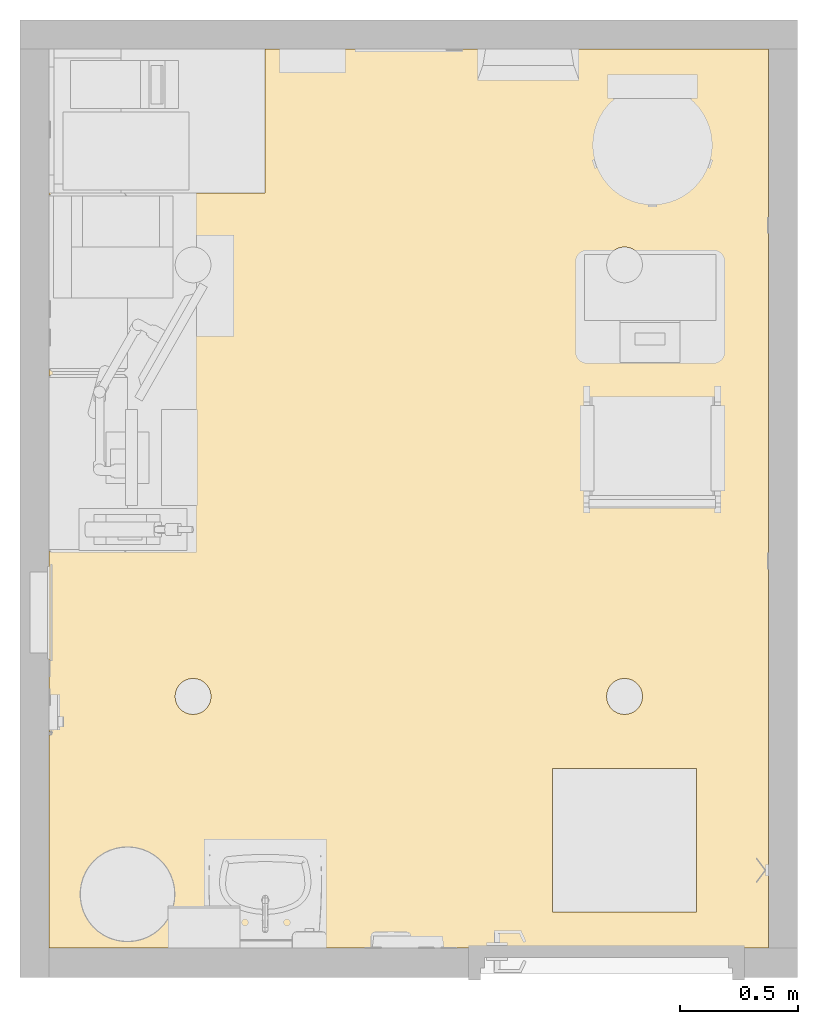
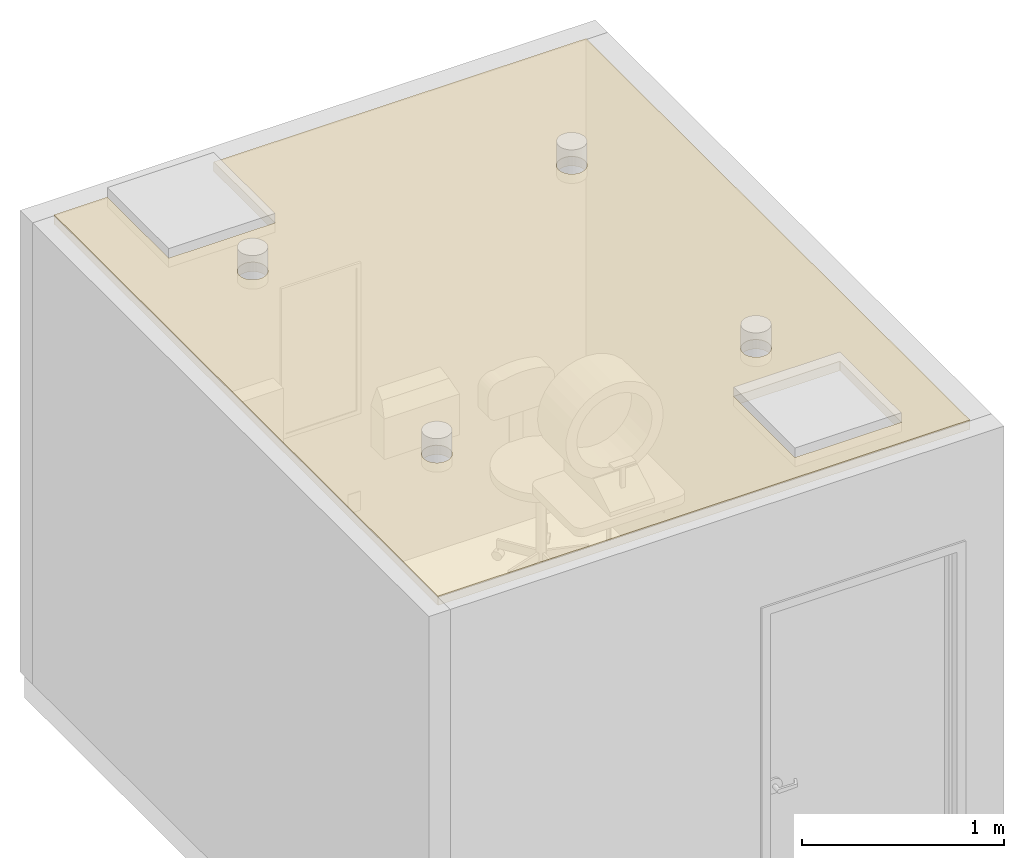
# One storey, part 3 of 11: 1 covering.
"""IFC2X3 building model written with IfcOpenShell, lengths in feet."""

from ifc_helpers import new_model, entity, si_unit, converted_unit, derived_unit, direction, frame, frame_2d, origin, place, context, subcontext, project, spatial, polyline, circle_curve, parameter, trimmed, segment, composite_curve, outline, extrude, material, layer, layer_set, layer_usage, element, save


model = new_model("IFC2X3")

# Units and contexts
model_context = context("Model", 3, precision=0.0001, world=origin(), true_north=direction((6.12303176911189e-17, 1.0)))
body_context = subcontext(model_context, "Body", "Model", "MODEL_VIEW")
ifc_project = project(units=[converted_unit("LENGTHUNIT", "FOOT", entity("IfcRatioMeasure", 0.3048), si_unit("LENGTHUNIT", "METRE"), dimensions=[1, 0, 0, 0, 0, 0, 0]), converted_unit("AREAUNIT", "SQUARE FOOT", entity("IfcRatioMeasure", 0.09290304), si_unit("AREAUNIT", "SQUARE_METRE"), dimensions=[2, 0, 0, 0, 0, 0, 0]), converted_unit("VOLUMEUNIT", "CUBIC FOOT", entity("IfcRatioMeasure", 0.028316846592), si_unit("VOLUMEUNIT", "CUBIC_METRE"), dimensions=[3, 0, 0, 0, 0, 0, 0]), converted_unit("PLANEANGLEUNIT", "DEGREE", entity("IfcRatioMeasure", 0.0174532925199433), si_unit("PLANEANGLEUNIT", "RADIAN"), dimensions=[0, 0, 0, 0, 0, 0, 0]), si_unit("MASSUNIT", "GRAM", prefix="KILO"), derived_unit("MASSDENSITYUNIT", [(si_unit("MASSUNIT", "GRAM", prefix="KILO"), 1), (si_unit("LENGTHUNIT", "METRE"), -3)]), si_unit("TIMEUNIT", "SECOND"), si_unit("FREQUENCYUNIT", "HERTZ"), si_unit("THERMODYNAMICTEMPERATUREUNIT", "DEGREE_CELSIUS"), derived_unit("THERMALTRANSMITTANCEUNIT", [(si_unit("MASSUNIT", "GRAM", prefix="KILO"), 1), (si_unit("THERMODYNAMICTEMPERATUREUNIT", "KELVIN"), -1), (si_unit("TIMEUNIT", "SECOND"), -3)]), derived_unit("VOLUMETRICFLOWRATEUNIT", [(si_unit("LENGTHUNIT", "METRE"), 3), (si_unit("TIMEUNIT", "SECOND"), -1)]), si_unit("ELECTRICCURRENTUNIT", "AMPERE"), si_unit("ELECTRICVOLTAGEUNIT", "VOLT"), si_unit("POWERUNIT", "WATT"), si_unit("FORCEUNIT", "NEWTON"), si_unit("ILLUMINANCEUNIT", "LUX"), si_unit("LUMINOUSFLUXUNIT", "LUMEN"), si_unit("LUMINOUSINTENSITYUNIT", "CANDELA"), derived_unit("USERDEFINED", [(si_unit("MASSUNIT", "GRAM", prefix="KILO"), -1), (si_unit("LENGTHUNIT", "METRE"), -2), (si_unit("TIMEUNIT", "SECOND"), 3), (si_unit("LUMINOUSFLUXUNIT", "LUMEN"), 1)]), derived_unit("LINEARVELOCITYUNIT", [(si_unit("LENGTHUNIT", "METRE"), 1), (si_unit("TIMEUNIT", "SECOND"), -1)]), si_unit("PRESSUREUNIT", "PASCAL"), derived_unit("USERDEFINED", [(si_unit("LENGTHUNIT", "METRE"), -2), (si_unit("MASSUNIT", "GRAM", prefix="KILO"), 1), (si_unit("TIMEUNIT", "SECOND"), -2)])], contexts=[model_context])

# Site, building, storey, space
site_placement = place(None, origin())
site = spatial("IfcSite", under=ifc_project, at=site_placement, Name="Default", CompositionType="ELEMENT")
building_placement = place(site_placement, origin())
building = spatial("IfcBuilding", under=site, at=building_placement, Name="EYE CLINIC:  OPTHALMOLOGY AND OPTOMETRY SERVICES (Ch. 233)", CompositionType="ELEMENT")
storey_placement = place(building_placement, origin())
storey = spatial("IfcBuildingStorey", under=building, at=storey_placement, Name="DATUM", CompositionType="ELEMENT", Elevation=0.0)
space_placement = place(storey_placement, origin())
space = spatial("IfcSpace", under=storey, at=space_placement, Name="(OPVF2)", CompositionType="ELEMENT", InteriorOrExteriorSpace="INTERNAL")

# Covering
ifc_material_1 = material(Name="Default")
ifc_layer_1 = layer(ifc_material_1, 0.135416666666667)
ifc_material_2 = material(Name="Acoustic Ceiling Tile 24 x 24")
ifc_layer_2 = layer(ifc_material_2, 0.0520833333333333)
ifc_layer_set = layer_set([ifc_layer_1, ifc_layer_2], Name="Compound Ceiling:2' x 2' ACT System")
ifc_layer_usage = layer_usage(ifc_layer_set, "AXIS3", "POSITIVE", 0.0)
covering_placement = place(space_placement, origin())
element("IfcCovering", 1, at=covering_placement, inside=space, material=ifc_layer_usage, Name="Compound Ceiling:2' x 2' ACT System", ObjectType="Compound Ceiling:2' x 2' ACT System", PredefinedType="CEILING", context=body_context, shape_type="SweptSolid", body=[
    extrude(outline(polyline([(-8.87500000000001, -6.49999999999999), (3.62499999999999, -6.49999999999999), (3.625, 0.500000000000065), (1.62500000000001, 0.500000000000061), (1.62500000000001, 2.50000000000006), (3.625, 2.50000000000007), (3.625, 3.50000000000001), (-8.875, 3.50000000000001), (-8.87500000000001, -6.49999999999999)]), holes=[composite_curve([segment(trimmed(circle_curve(frame_2d((0.624999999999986, 1.50000000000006), x_axis=(0.0, -1.0)), 0.25), [parameter(180.0)], [parameter(0.0)], True, "PARAMETER"), False, "CONTINUOUS"), segment(trimmed(circle_curve(frame_2d((0.624999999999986, 1.50000000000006), x_axis=(0.0, -1.0)), 0.25), [parameter(0.0)], [parameter(180.0)], True, "PARAMETER"), False, "CONTINUOUS")], self_intersect=False), composite_curve([segment(trimmed(circle_curve(frame_2d((-5.37500000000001, 1.49999999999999), x_axis=(0.0, -1.0)), 0.25), [parameter(180.0)], [parameter(0.0)], True, "PARAMETER"), False, "CONTINUOUS"), segment(trimmed(circle_curve(frame_2d((-5.37500000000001, 1.49999999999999), x_axis=(0.0, -1.0)), 0.25), [parameter(0.0)], [parameter(180.0)], True, "PARAMETER"), False, "CONTINUOUS")], self_intersect=False), composite_curve([segment(trimmed(circle_curve(frame_2d((0.625000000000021, -4.49999999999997), x_axis=(0.0, -1.0)), 0.25), [parameter(180.0)], [parameter(0.0)], True, "PARAMETER"), False, "CONTINUOUS"), segment(trimmed(circle_curve(frame_2d((0.625000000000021, -4.49999999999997), x_axis=(0.0, -1.0)), 0.25), [parameter(0.0)], [parameter(180.0)], True, "PARAMETER"), False, "CONTINUOUS")], self_intersect=False), composite_curve([segment(trimmed(circle_curve(frame_2d((-5.37499999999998, -4.50000000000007), x_axis=(0.0, -1.0)), 0.25), [parameter(180.0)], [parameter(0.0)], True, "PARAMETER"), False, "CONTINUOUS"), segment(trimmed(circle_curve(frame_2d((-5.37499999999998, -4.50000000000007), x_axis=(0.0, -1.0)), 0.25), [parameter(0.0)], [parameter(180.0)], True, "PARAMETER"), False, "CONTINUOUS")], self_intersect=False), polyline([(-8.37499999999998, -3.49999999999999), (-6.37499999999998, -3.49999999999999), (-6.37499999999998, -5.49999999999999), (-8.37499999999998, -5.49999999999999), (-8.37499999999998, -3.49999999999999)])]), frame((193.139769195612, 25.385750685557, 9.0), z_axis=(0.0, 0.0, 1.0), x_axis=(0.0, 1.0, 0.0)), (0.0, 0.0, 1.0), 0.1875),
])

save(model, "model.ifc")
